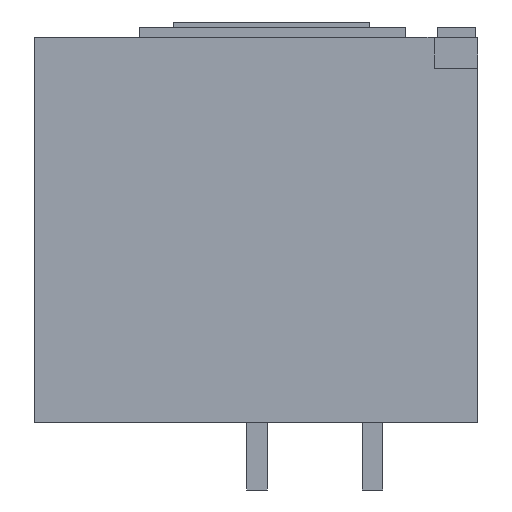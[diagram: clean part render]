
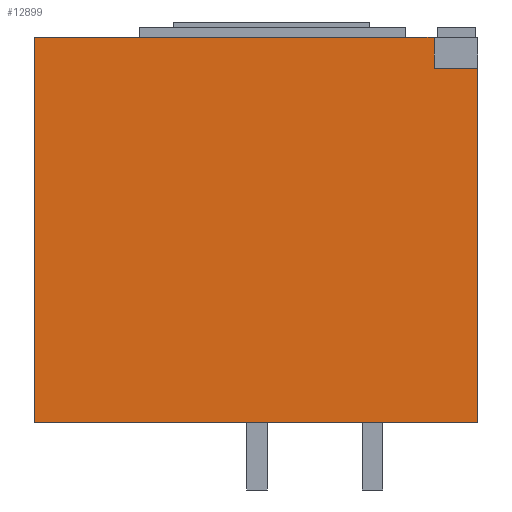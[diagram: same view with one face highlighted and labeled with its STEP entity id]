
A CAD part, left-side view. The second image highlights one B-rep face of the part: STEP entity #12899.
In plain terms, the highlighted planar face has unit normal (-1, 0, 0).
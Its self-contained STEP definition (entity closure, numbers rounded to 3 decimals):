
#848 = EDGE_CURVE ( 'NONE', #22712, #14724, #4973, .T. ) ;
#1495 = VECTOR ( 'NONE', #8328, 1000. ) ;
#1905 = ORIENTED_EDGE ( 'NONE', *, *, #34250, .F. ) ;
#3447 = CARTESIAN_POINT ( 'NONE',  ( -167.5, 0., -373.5 ) ) ;
#4065 = VECTOR ( 'NONE', #34726, 1000. ) ;
#4973 = LINE ( 'NONE', #27263, #4065 ) ;
#5671 = CARTESIAN_POINT ( 'NONE',  ( -167.5, 0., -373.5 ) ) ;
#6480 = CARTESIAN_POINT ( 'NONE',  ( -167.5, 0., 0. ) ) ;
#6736 = EDGE_CURVE ( 'NONE', #27367, #24599, #31770, .T. ) ;
#6775 = VECTOR ( 'NONE', #15060, 1000. ) ;
#7694 = LINE ( 'NONE', #29250, #6775 ) ;
#8328 = DIRECTION ( 'NONE',  ( 0., 0., 1. ) ) ;
#8711 = ORIENTED_EDGE ( 'NONE', *, *, #22312, .T. ) ;
#8929 = DIRECTION ( 'NONE',  ( -1., 0., 0. ) ) ;
#9098 = LINE ( 'NONE', #19934, #31828 ) ;
#11199 = CARTESIAN_POINT ( 'NONE',  ( -167.5, 430., -373.5 ) ) ;
#12899 = ADVANCED_FACE ( 'NONE', ( #21336 ), #20527, .T. ) ;
#14724 = VERTEX_POINT ( 'NONE', #35013 ) ;
#15060 = DIRECTION ( 'NONE',  ( 0., 0., 1. ) ) ;
#15562 = LINE ( 'NONE', #15580, #24024 ) ;
#15580 = CARTESIAN_POINT ( 'NONE',  ( -167.5, 0., -373.5 ) ) ;
#17177 = CARTESIAN_POINT ( 'NONE',  ( -167.5, 430., -373.5 ) ) ;
#17984 = ORIENTED_EDGE ( 'NONE', *, *, #848, .F. ) ;
#18446 = DIRECTION ( 'NONE',  ( 0., 0., 1. ) ) ;
#18748 = VECTOR ( 'NONE', #29268, 1000. ) ;
#19934 = CARTESIAN_POINT ( 'NONE',  ( -167.5, 0., -373.5 ) ) ;
#20339 = VERTEX_POINT ( 'NONE', #5671 ) ;
#20527 = PLANE ( 'NONE',  #32827 ) ;
#20865 = EDGE_LOOP ( 'NONE', ( #1905, #33936, #35650, #25578, #17984, #8711 ) ) ;
#21071 = CARTESIAN_POINT ( 'NONE',  ( -167.5, 42.5, 0. ) ) ;
#21336 = FACE_OUTER_BOUND ( 'NONE', #20865, .T. ) ;
#22312 = EDGE_CURVE ( 'NONE', #22712, #25946, #7694, .T. ) ;
#22449 = DIRECTION ( 'NONE',  ( 0., -1., 0. ) ) ;
#22712 = VERTEX_POINT ( 'NONE', #25361 ) ;
#24024 = VECTOR ( 'NONE', #18446, 1000. ) ;
#24599 = VERTEX_POINT ( 'NONE', #36211 ) ;
#25361 = CARTESIAN_POINT ( 'NONE',  ( -167.5, 42.5, -30. ) ) ;
#25578 = ORIENTED_EDGE ( 'NONE', *, *, #26095, .T. ) ;
#25946 = VERTEX_POINT ( 'NONE', #21071 ) ;
#26095 = EDGE_CURVE ( 'NONE', #20339, #14724, #15562, .T. ) ;
#26217 = DIRECTION ( 'NONE',  ( 0., -1., 0. ) ) ;
#27263 = CARTESIAN_POINT ( 'NONE',  ( -167.5, 430.001, -30. ) ) ;
#27367 = VERTEX_POINT ( 'NONE', #17177 ) ;
#28452 = EDGE_CURVE ( 'NONE', #27367, #20339, #9098, .T. ) ;
#29250 = CARTESIAN_POINT ( 'NONE',  ( -167.5, 42.5, -373.5 ) ) ;
#29268 = DIRECTION ( 'NONE',  ( 0., -1., 0. ) ) ;
#31770 = LINE ( 'NONE', #11199, #1495 ) ;
#31828 = VECTOR ( 'NONE', #22449, 1000. ) ;
#32827 = AXIS2_PLACEMENT_3D ( 'NONE', #3447, #8929, #26217 ) ;
#33936 = ORIENTED_EDGE ( 'NONE', *, *, #6736, .F. ) ;
#34250 = EDGE_CURVE ( 'NONE', #24599, #25946, #34794, .T. ) ;
#34726 = DIRECTION ( 'NONE',  ( 0., -1., 0. ) ) ;
#34794 = LINE ( 'NONE', #6480, #18748 ) ;
#35013 = CARTESIAN_POINT ( 'NONE',  ( -167.5, 0., -30. ) ) ;
#35650 = ORIENTED_EDGE ( 'NONE', *, *, #28452, .T. ) ;
#36211 = CARTESIAN_POINT ( 'NONE',  ( -167.5, 430., 0. ) ) ;
